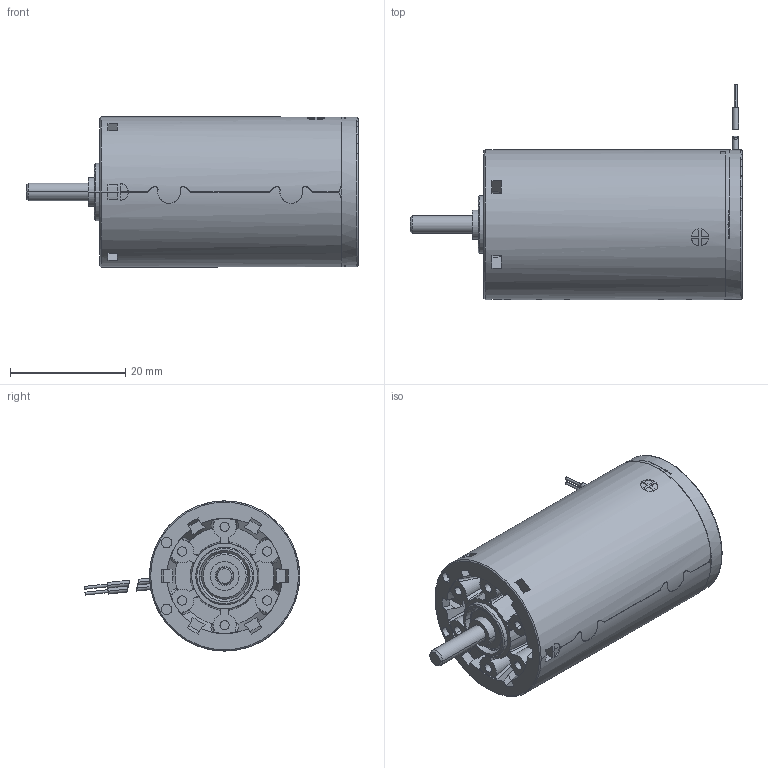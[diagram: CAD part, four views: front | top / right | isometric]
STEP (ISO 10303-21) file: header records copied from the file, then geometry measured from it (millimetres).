
FILE_DESCRIPTION((''),'2;1');
FILE_NAME('353132_AMAX26_GB_6W_KL_1WE_K','2016-11-22T',('mmagvisi'),(''),'CREO PARAMETRIC BY PTC INC, 2016050','CREO PARAMETRIC BY PTC INC, 2016050','');
FILE_SCHEMA(('CONFIG_CONTROL_DESIGN'));
Length unit declared in the file: millimetre
Products named in the file (1): 353132_AMAX26_GB_6W_KL_1WE_K
Bounding box: 57.5 x 37.3 x 26 mm (x, y, z)
Volume: 23025.6 mm3; surface area: 6383.1 mm2
Topology: 3 solids, 3 shells, 333 faces, 903 edges, 592 vertices
Faces by surface type: plane 178, cylinder 106, cone 24, bspline 24, torus 1
Entity records: 16852 total; most frequent: CARTESIAN_POINT 4428, ORIENTED_EDGE 1806, DIRECTION 1602, PRESENTATION_STYLE_ASSIGNMENT 1090, STYLED_ITEM 906, CURVE_STYLE 903, EDGE_CURVE 903, VERTEX_POINT 592
